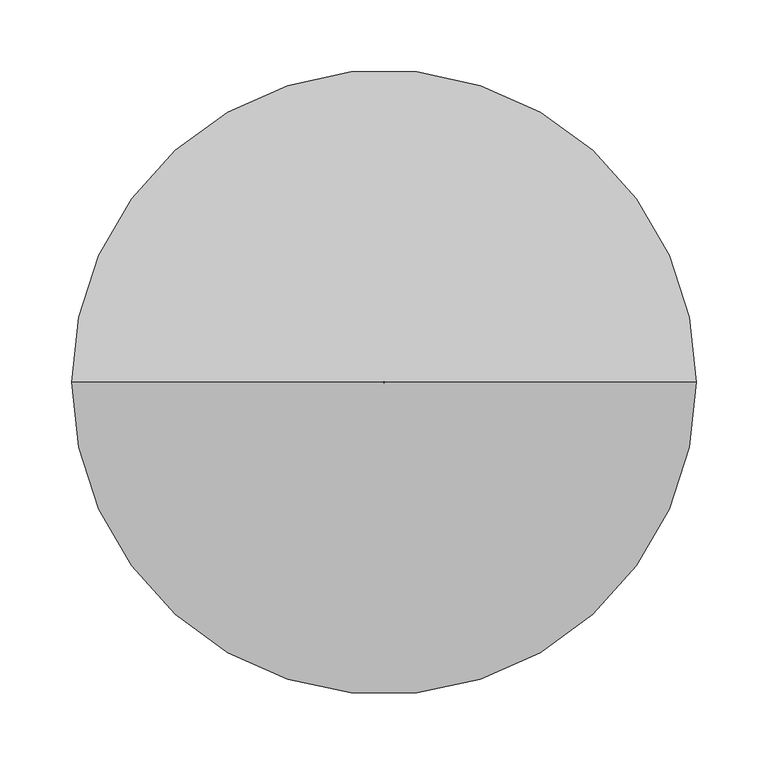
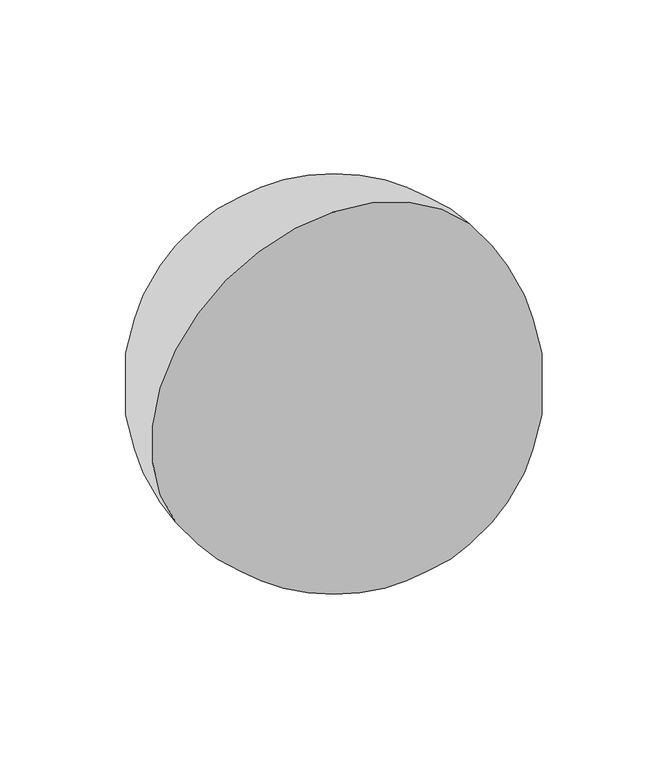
"""IFC4 building model written with IfcOpenShell, lengths in millimetres: proxy geometry."""

from ifc_helpers import new_model, si_unit, point, frame, origin, place, context, project, spatial, polyline, circle_curve, ellipse_curve, trimmed, source, transform, mapped, element, save
from ifc_brep_helpers import revolved_surface, advanced_brep


def generic_models_fe5f96ef(model_context):
    return source(origin(), model_context, "Body", "AdvancedBrep", [
        advanced_brep(
        [(-56385.9759224, 6631.5525272, 160.0), (-56387.3768907, 6631.5525272, 160.0), (-56387.3768907, 6631.5525272, 595.0), (-56385.9759224, 6631.5525272, 595.0)],
        [
            (0, 1, circle_curve(frame((-56386.6764066, 6631.5525272, 160.0), z_axis=(0.0, 0.0, -1.0), x_axis=(-1.0, 0.0, 0.0)), 0.7004842)),
            (1, 2),
            (2, 3, circle_curve(frame((-56386.6764066, 6631.5525272, 595.0), z_axis=(0.0, 0.0, 1.0), x_axis=(-1.0, 0.0, 0.0)), 0.7004842)),
            (3, 0),
            (1, 0, circle_curve(frame((-56386.6764066, 6631.5525272, 160.0), z_axis=(0.0, 0.0, -1.0), x_axis=(-1.0, 0.0, 0.0)), 0.7004842)),
            (3, 2, circle_curve(frame((-56386.6764066, 6631.5525272, 595.0), z_axis=(0.0, 0.0, 1.0), x_axis=(-1.0, 0.0, 0.0)), 0.7004842)),
            (2, 1, circle_curve(frame((-56387.3768907, 6631.5525272, 377.5), z_axis=(0.0, -1.0, 0.0), x_axis=(-1.0, 0.0, 0.0)), 217.5)),
            (0, 3, circle_curve(frame((-56385.9759224, 6631.5525272, 377.5), z_axis=(0.0, -1.0, 0.0), x_axis=(1.0, 0.0, 0.0)), 217.5)),
        ],
        [
            revolved_surface(polyline([(-56387.376890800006, 6631.5525272, 595.0), (-56387.376890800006, 6631.5525272, 160.0)]), (-56386.6764066, 6631.5525272, 500.0), (0.0, 0.0, 1.0)),
            revolved_surface(trimmed(ellipse_curve(frame((-56387.3768907, 6631.5525272, 377.5), z_axis=(0.0, 1.0, 0.0), x_axis=(-1.0, 0.0, 0.0)), 217.5, 217.5), [point((-56387.3768907, 6631.5525272, 160.0))], [point((-56387.3768907, 6631.5525272, 595.0))], True, "CARTESIAN"), (-56386.6764066, 6631.5525272, 500.0), (0.0, 0.0, 1.0)),
        ],
        [
            (0, [[1, 2, 3, 4]]),
            (0, [[5, -4, 6, -2]]),
            (1, [[-3, 7, -1, 8]]),
            (1, [[-6, -8, -5, -7]]),
        ],
    ),
    ])


if __name__ == "__main__":
    model = new_model("IFC4")
    model_context = context("Model", 3, world=origin())
    ifc_project = project(units=[si_unit("LENGTHUNIT", "METRE", prefix="MILLI")], contexts=[model_context])
    site = spatial("IfcSite", under=ifc_project)
    building = spatial("IfcBuilding", under=site)
    placement = place(None, origin())
    generic_models_shape = generic_models_fe5f96ef(model_context)
    element("IfcBuildingElementProxy", 1, Name="Generic Models", at=placement, inside=building, context=model_context, shape_type="MappedRepresentation", body=[
        mapped(generic_models_shape, transform((0.0, 0.0, 0.0), x_axis=(1.0, 0.0, 0.0), y_axis=(0.0, 1.0, 0.0), z_axis=(0.0, 0.0, 1.0))),
    ])
    save(model, "model.ifc")
